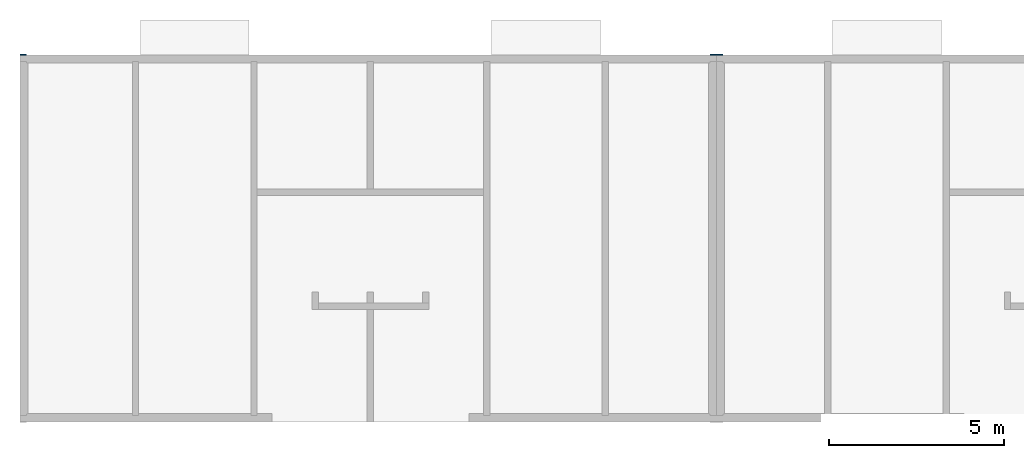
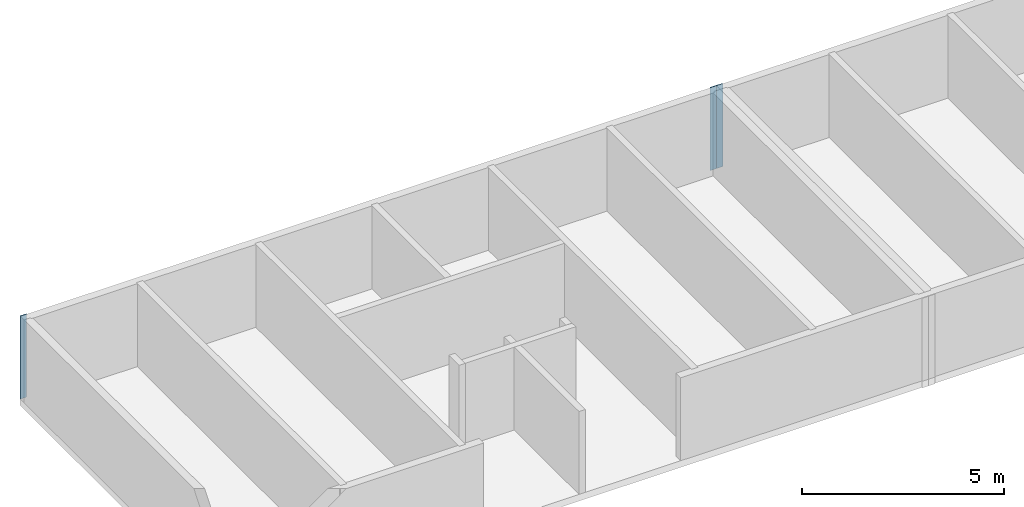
# One storey, part 3 of 9: 3 walls.
"""IFC2X3 building model written with IfcOpenShell, lengths in metres."""

import ifcopenshell
import ifcopenshell.guid

model = None  # the IFC model being written
_history = None  # IfcOwnerHistory: only IFC2X3 demands one
_inside = {}  # id of a spatial element -> (the spatial element, [elements in it])
_under = {}  # id of a project, library or spatial element -> (it, [spatial elements below it])
_declared = {}  # id of a project -> (the project, [libraries it declares])
_typed = {}  # id of a type object -> (the type object, [elements of that type])
_made_of = {}  # id of a material, layer set ... -> (it, [elements and type objects made of it])


def new_model(schema):
    """Start an empty IFC model of exactly this schema.

    Asked for "IFC4X3", IfcOpenShell would pick the latest addendum, in which some entities
    have other attributes; the version numbers below select the first issue.
    IFC2X3 requires an IfcOwnerHistory on every rooted entity: one is made here for all.
    """
    global model, _history
    if schema == "IFC4X3":
        model = ifcopenshell.file(schema_version=(4, 3, 0, 0))
    else:
        model = ifcopenshell.file(schema=schema)
    _inside.clear()
    _under.clear()
    _declared.clear()
    _typed.clear()
    _made_of.clear()
    _history = None
    if model.schema == "IFC2X3":
        org = make("IfcOrganization", Name="unknown")
        user = make(
            "IfcPersonAndOrganization",
            ThePerson=make("IfcPerson", FamilyName="unknown"),
            TheOrganization=org,
        )
        app = make(
            "IfcApplication",
            ApplicationDeveloper=org,
            Version="unknown",
            ApplicationFullName="unknown",
            ApplicationIdentifier="unknown",
        )
        _history = make(
            "IfcOwnerHistory",
            OwningUser=user,
            OwningApplication=app,
            ChangeAction="ADDED",
            CreationDate=0,
        )
    return model


def make(cls, **values):
    """One entity of the class cls with the attributes given. An attribute that is None is left unset."""
    return model.create_entity(
        cls, **{name: value for name, value in values.items() if value is not None}
    )


def rooted(cls, **values):
    """An entity with a GlobalId (a new one), such as an element, a storey or a relation."""
    return make(cls, GlobalId=ifcopenshell.guid.new(), OwnerHistory=_history, **values)


def si_unit(unit_type, name, prefix=None):
    """IfcSIUnit, for example si_unit("LENGTHUNIT", "METRE", prefix="MILLI")."""
    return make("IfcSIUnit", UnitType=unit_type, Prefix=prefix, Name=name)


def assignment(units):
    """IfcUnitAssignment: the units of a project."""
    return None if units is None else make("IfcUnitAssignment", Units=units)


def point(xyz):
    """IfcCartesianPoint."""
    return None if xyz is None else make("IfcCartesianPoint", Coordinates=xyz)


def direction(xyz):
    """IfcDirection."""
    return None if xyz is None else make("IfcDirection", DirectionRatios=xyz)


def frame(location, z_axis=None, x_axis=None):
    """IfcAxis2Placement3D, a coordinate frame: its origin and axes. An axis left out is left unset."""
    return make(
        "IfcAxis2Placement3D",
        Location=point(location),
        Axis=direction(z_axis),
        RefDirection=direction(x_axis),
    )


def frame_2d(location, x_axis=None):
    """IfcAxis2Placement2D, a coordinate frame in the plane: its origin and x axis."""
    return make(
        "IfcAxis2Placement2D", Location=point(location), RefDirection=direction(x_axis)
    )


def origin():
    """The frame at (0, 0, 0) with its axes left unset."""
    return frame((0.0, 0.0, 0.0))


def place(relative_to, where):
    """IfcLocalPlacement: puts the frame where relative to a parent placement (None: the world)."""
    return make(
        "IfcLocalPlacement", PlacementRelTo=relative_to, RelativePlacement=where
    )


def context(
    kind, dimensions, precision=None, world=None, true_north=None, identifier=None
):
    """IfcGeometricRepresentationContext, for example the 3D "Model" context."""
    return make(
        "IfcGeometricRepresentationContext",
        ContextIdentifier=identifier,
        ContextType=kind,
        CoordinateSpaceDimension=dimensions,
        Precision=precision,
        WorldCoordinateSystem=world,
        TrueNorth=true_north,
    )


def project(units=None, contexts=None):
    """IfcProject with its units and contexts."""
    return rooted(
        "IfcProject",
        Name="project",
        RepresentationContexts=contexts,
        UnitsInContext=assignment(units),
    )


def spatial(cls, under=None, at=None, **own):
    """A site, building, storey or space (cls), placed at a placement, below another one or the project."""
    s = rooted(cls, ObjectPlacement=at, **own)
    if under is not None:
        _under.setdefault(under.id(), (under, []))[1].append(s)
    return s


def profile(cls, at=None, kind="AREA", **sizes):
    """A parametric profile (cls). Its sizes go by their IFC names, for example OverallWidth=200.0."""
    return make(cls, ProfileType=kind, Position=at, **sizes)


def rectangle(**sizes):
    """IfcRectangleProfileDef."""
    return profile("IfcRectangleProfileDef", **sizes)


def extrude(swept, where, along, depth):
    """IfcExtrudedAreaSolid: the profile swept, set in the frame where, extruded along a direction by depth."""
    return make(
        "IfcExtrudedAreaSolid",
        SweptArea=swept,
        Position=where,
        ExtrudedDirection=direction(along),
        Depth=depth,
    )


def shape(context_of_items, identifier, shape_type, items):
    """IfcShapeRepresentation: the items that make up one representation, for example the "Body"."""
    return make(
        "IfcShapeRepresentation",
        ContextOfItems=context_of_items,
        RepresentationIdentifier=identifier,
        RepresentationType=shape_type,
        Items=items,
    )


def made_of(thing, what):
    """Note that an element or type object is made of a material, layer set ...; save() writes the relation."""
    if what is not None:
        _made_of.setdefault(what.id(), (what, []))[1].append(thing)
    return thing


def element(
    cls,
    number,
    at=None,
    inside=None,
    cuts=None,
    type_object=None,
    material=None,
    context=None,
    identifier="Body",
    shape_type=None,
    held_by="IfcProductDefinitionShape",
    body=None,
    shapes=None,
    **own,
):
    """One element of the class cls, such as IfcWall. Its Tag is "e" and its number.

    at: its placement. inside: the storey or other place that contains it. cuts: it is an
    opening in that element (IfcRelVoidsElement). A single representation is given by context,
    identifier, shape_type and body (its items); several are given by shapes. held_by: the class
    of the entity that holds the representations. save() writes the other relations.
    """
    e = rooted(cls, Tag="e%d" % number, ObjectPlacement=at, **own)
    if body is not None:
        shapes = [shape(context, identifier, shape_type, body)]
    if shapes is not None:
        e.Representation = make(held_by, Representations=shapes)
    if inside is not None:
        _inside.setdefault(inside.id(), (inside, []))[1].append(e)
    if cuts is not None:
        rooted(
            "IfcRelVoidsElement", RelatingBuildingElement=cuts, RelatedOpeningElement=e
        )
    if type_object is not None:
        _typed.setdefault(type_object.id(), (type_object, []))[1].append(e)
    return made_of(e, material)


def aggregate(whole, parts):
    """IfcRelAggregates: a whole, such as a stair, and the parts it consists of."""
    return rooted("IfcRelAggregates", RelatingObject=whole, RelatedObjects=parts)


def save(model, path):
    """Write the relations noted so far, then the file.

    IfcRelAggregates (storeys below a building ...), IfcRelContainedInSpatialStructure (elements
    in a storey), IfcRelDefinesByType, IfcRelAssociatesMaterial and IfcRelDeclares: one each for
    every whole, place, type object, material and project.
    """
    for whole, parts in _under.values():
        aggregate(whole, parts)
    for where, things in _inside.values():
        rooted(
            "IfcRelContainedInSpatialStructure",
            RelatedElements=things,
            RelatingStructure=where,
        )
    for kind, things in _typed.values():
        rooted("IfcRelDefinesByType", RelatedObjects=things, RelatingType=kind)
    for what, things in _made_of.values():
        rooted("IfcRelAssociatesMaterial", RelatedObjects=things, RelatingMaterial=what)
    for by, libraries in _declared.values():
        rooted("IfcRelDeclares", RelatingContext=by, RelatedDefinitions=libraries)
    model.write(path)


model = new_model("IFC2X3")

# Units and contexts
model_context = context("Model", 3, precision=1e-06, world=origin())
ifc_project = project(units=[si_unit("LENGTHUNIT", "METRE"), si_unit("PLANEANGLEUNIT", "RADIAN")], contexts=[model_context])

# Site, building, storey
site = spatial("IfcSite", under=ifc_project, CompositionType="ELEMENT")
building = spatial("IfcBuilding", under=site, CompositionType="ELEMENT")
storey = spatial("IfcBuildingStorey", under=building, Name="r+2", CompositionType="ELEMENT", Elevation=5.4)

# Walls
placement = place(None, origin())
wall_1_placement = place(placement, frame((19.849999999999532, 10.470077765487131, 5.4), z_axis=(0.0, 0.0, 1.0), x_axis=(-1.0, 0.0, 0.0)))
element("IfcWall", 1, at=wall_1_placement, inside=storey, context=model_context, shape_type="SweptSolid", body=[
    extrude(rectangle(XDim=0.18, YDim=0.020000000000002, at=frame_2d((0.09, 0.010000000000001), x_axis=(1.0, 0.0)), kind="CURVE"), frame((0.0, -0.020000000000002, 0.0), z_axis=(0.0, 0.0, 1.0), x_axis=(1.0, 0.0, 0.0)), (0.0, 0.0, 1.0), 2.5),
])
wall_2_placement = place(placement, frame((19.849999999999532, 10.49007776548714, 5.4), z_axis=(0.0, 0.0, 1.0), x_axis=(1.0, 0.0, 0.0)))
element("IfcWall", 2, at=wall_2_placement, inside=storey, context=model_context, shape_type="SweptSolid", body=[
    extrude(rectangle(XDim=0.18, YDim=0.02, at=frame_2d((0.09, 0.01), x_axis=(1.0, 0.0)), kind="CURVE"), frame((0.0, -0.02, 0.0), z_axis=(0.0, 0.0, 1.0), x_axis=(1.0, 0.0, 0.0)), (0.0, 0.0, 1.0), 2.5),
])
wall_3_placement = place(placement, frame((-4e-15, 10.49007776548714, 5.4), z_axis=(0.0, 0.0, 1.0), x_axis=(1.0, 0.0, 0.0)))
element("IfcWall", 3, at=wall_3_placement, inside=storey, context=model_context, shape_type="SweptSolid", body=[
    extrude(rectangle(XDim=0.18, YDim=0.019999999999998, at=frame_2d((0.09, 0.009999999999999), x_axis=(1.0, 0.0)), kind="CURVE"), frame((0.0, -0.019999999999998, 0.0), z_axis=(0.0, 0.0, 1.0), x_axis=(1.0, 0.0, 0.0)), (0.0, 0.0, 1.0), 2.5),
])

save(model, "model.ifc")
